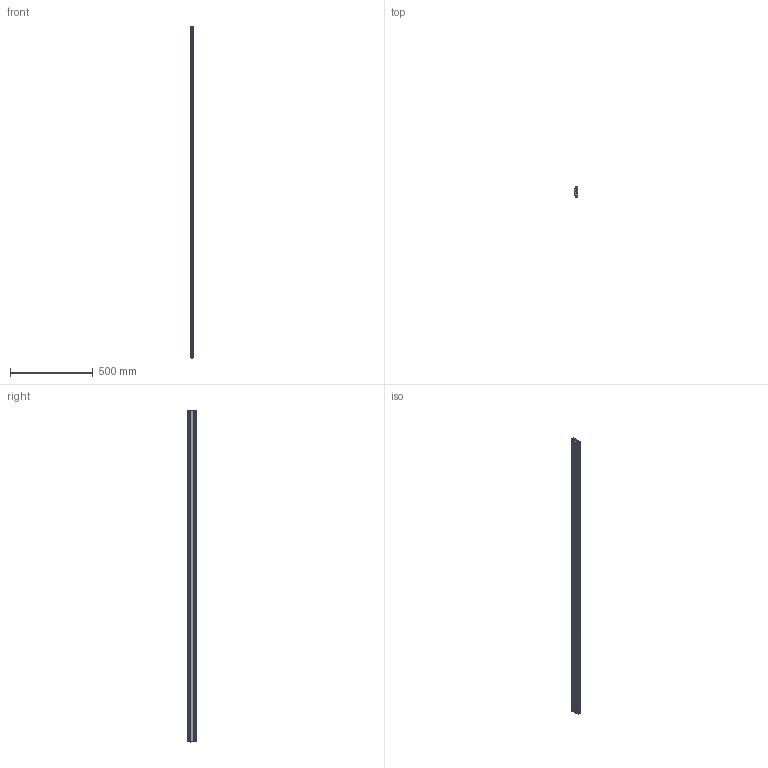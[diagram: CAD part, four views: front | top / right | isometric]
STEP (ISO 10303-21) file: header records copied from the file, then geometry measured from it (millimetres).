
FILE_DESCRIPTION (( 'STEP AP214' ), '1' );
FILE_NAME ('04563.STEP', '2014-03-31T09:06:38', ( '' ), ( '' ), 'SwSTEP 2.0', 'SolidWorks 2014', '' );
FILE_SCHEMA (( 'AUTOMOTIVE_DESIGN' ));
Length unit declared in the file: millimetre
Products named in the file (1): 04563
Bounding box: 23.1 x 60 x 2000 mm (x, y, z)
Volume: 1757983.4 mm3; surface area: 487806.7 mm2
Topology: 1 solids, 1 shells, 78 faces, 228 edges, 152 vertices
Faces by surface type: plane 40, cylinder 38
Entity records: 2664 total; most frequent: DIRECTION 462, CARTESIAN_POINT 459, ORIENTED_EDGE 456, EDGE_CURVE 228, AXIS2_PLACEMENT_3D 155, VECTOR 152, VERTEX_POINT 152, LINE 152
